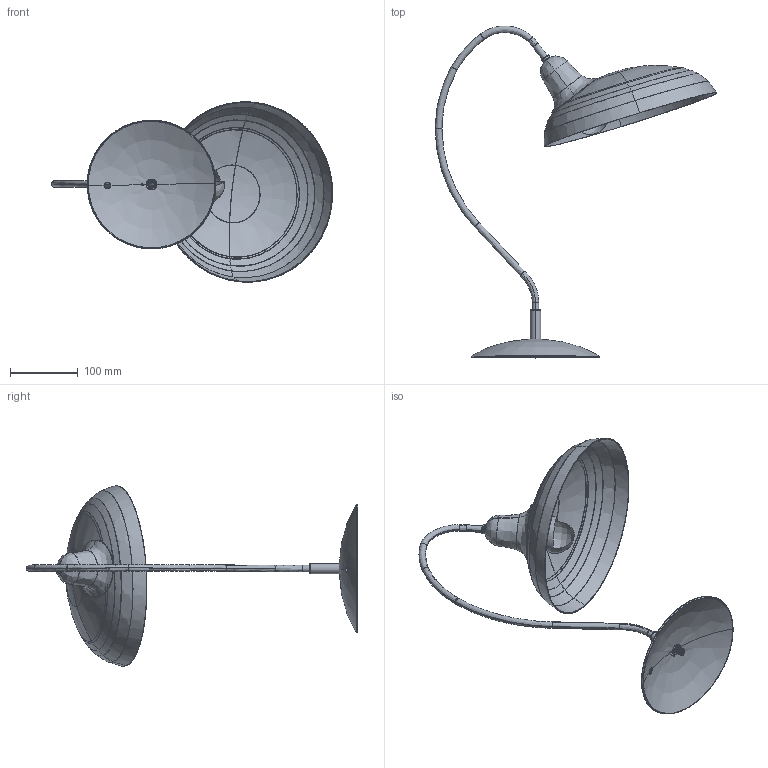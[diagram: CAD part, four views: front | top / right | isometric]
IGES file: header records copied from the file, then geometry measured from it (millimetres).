
Start section: SolidWorks IGES file using analytic representation for surfaces
Global section: file name: E:\_DESIGN\Aura\Aura biurko 6865\Aura biurko 6865.IGS; native system: SolidWorks 2016; preprocessor: SolidWorks 2016; author: Asia; date: 160707.132829; units: millimetre
Bounding box: 414.19 x 488.75 x 265.7 mm (x, y, z)
Surface area: 314406.1 mm2 (no closed solid volume)
Topology: 0 solids, 0 shells, 443 faces, 5365 edges, 5361 vertices
Faces by surface type: revolution 253, bspline 190
